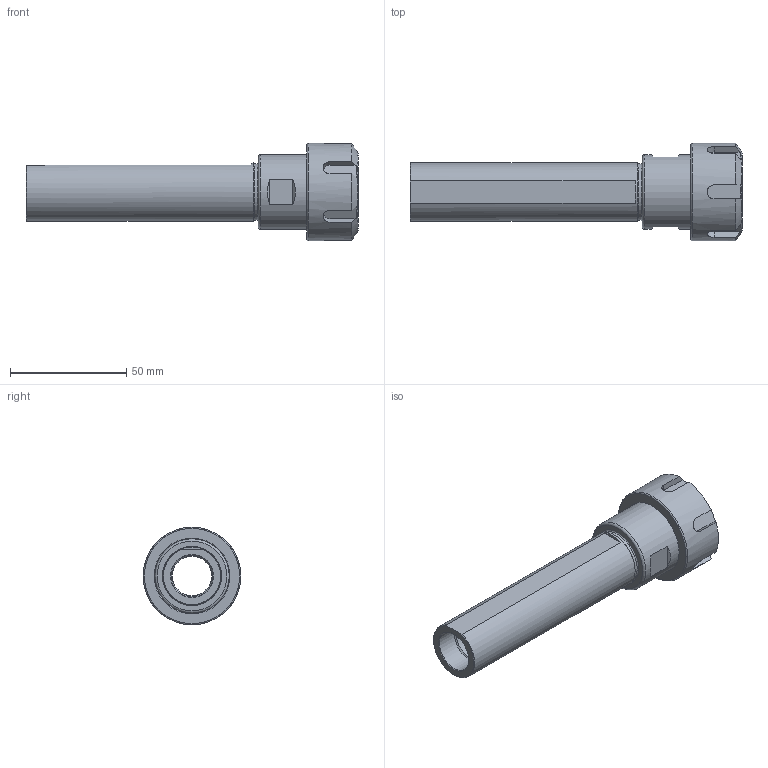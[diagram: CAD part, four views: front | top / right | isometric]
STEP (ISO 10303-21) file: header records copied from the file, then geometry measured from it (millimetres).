
FILE_DESCRIPTION(/* description */ (''),/* implementation_level */ '2;1');
FILE_NAME(/* name */ 'C25-ER25UM-100.stp',/* time_stamp */ '2025-11-11T10:49:02+03:00',/* author */ ('User'),/* organization */ (''),/* preprocessor_version */ 'ST-DEVELOPER v19.2',/* originating_system */ 'Autodesk Inventor 2024',/* authorisation */ '');
FILE_SCHEMA (('AUTOMOTIVE_DESIGN { 1 0 10303 214 3 1 1 }'));
Length unit declared in the file: millimetre
Products named in the file (3): C25-ER25UM-100; C25-ER25UM-100_1; ER25-M
Assembly tree (2 placements, depth 2):
  C25-ER25UM-100
    C25-ER25UM-100_1
    ER25-M
Bounding box: 143 x 42 x 42 mm (x, y, z)
Volume: 55778.2 mm3; surface area: 27188.7 mm2
Topology: 2 solids, 2 shells, 65 faces, 166 edges, 110 vertices
Faces by surface type: plane 34, cylinder 16, cone 11, torus 4
Full cylindrical faces by diameter (mm): 17 x1, 18 x2, 24.5 x1, 25 x1, 25.6 x1, 30.6 x2, 32 x1, 42 x1
Entity records: 2223 total; most frequent: CARTESIAN_POINT 496, DIRECTION 337, ORIENTED_EDGE 332, EDGE_CURVE 166, AXIS2_PLACEMENT_3D 134, VERTEX_POINT 110, EDGE_LOOP 74, LINE 69
